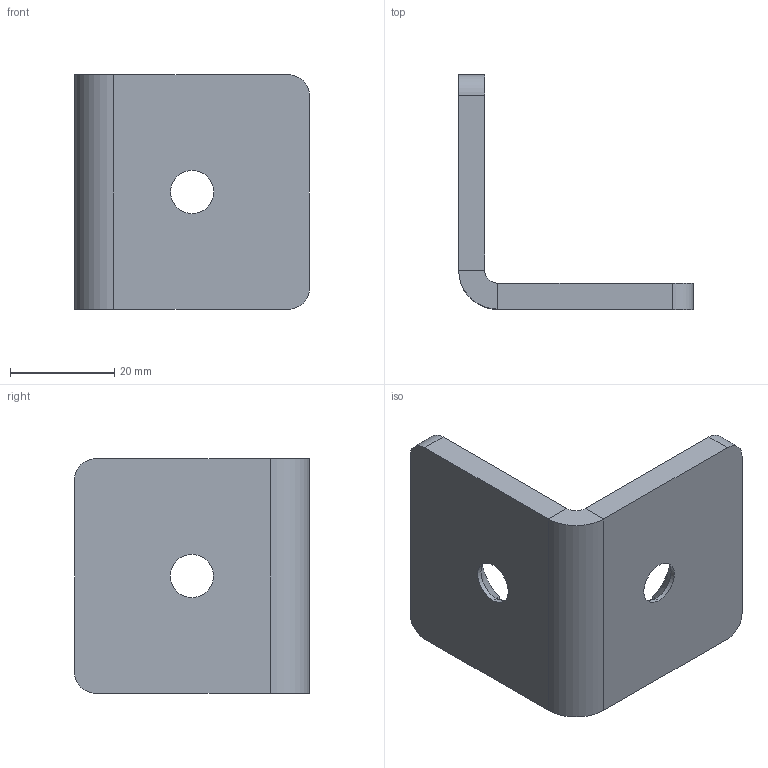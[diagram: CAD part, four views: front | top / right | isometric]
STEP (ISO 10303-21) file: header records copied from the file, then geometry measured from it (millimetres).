
FILE_DESCRIPTION (( 'STEP AP214' ), '1' );
FILE_NAME ('967-45-45-L-1-SW.step', '2023-06-26T09:08:43', ( '' ), ( '' ), 'SwSTEP 2.0', 'SolidWorks 2022', '' );
FILE_SCHEMA (( 'AUTOMOTIVE_DESIGN' ));
Length unit declared in the file: millimetre
Products named in the file (1): 967-45-45-L-1-SW
Bounding box: 45.05 x 45.05 x 45 mm (x, y, z)
Volume: 17471.9 mm3; surface area: 8646.3 mm2
Topology: 1 solids, 1 shells, 26 faces, 60 edges, 36 vertices
Faces by surface type: plane 12, cylinder 10, cone 4
Entity records: 774 total; most frequent: DIRECTION 138, CARTESIAN_POINT 123, ORIENTED_EDGE 120, EDGE_CURVE 60, AXIS2_PLACEMENT_3D 51, VECTOR 36, VERTEX_POINT 36, LINE 36
